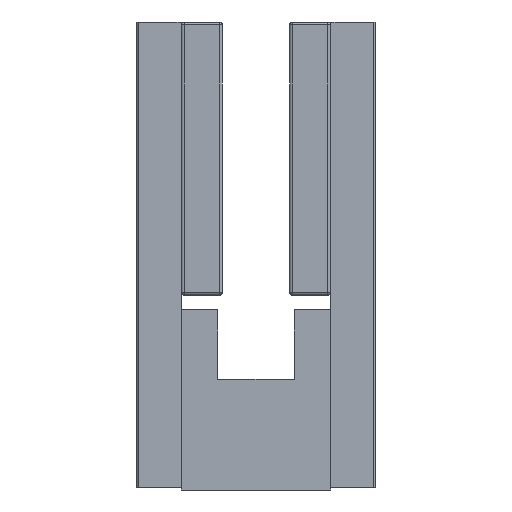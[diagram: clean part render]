
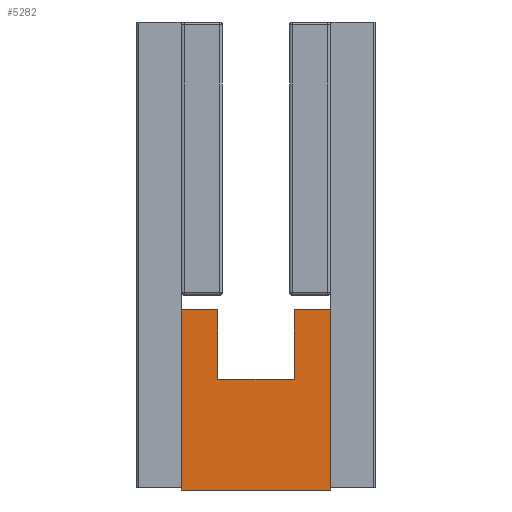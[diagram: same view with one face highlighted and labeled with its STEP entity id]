
A CAD part, left-side view. The second image highlights one B-rep face of the part: STEP entity #5282.
In plain terms, the highlighted planar face has unit normal (-1, 0, 0).
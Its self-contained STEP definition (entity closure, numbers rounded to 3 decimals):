
#52 = VERTEX_POINT ( 'NONE', #819 ) ;
#102 = DIRECTION ( 'NONE',  ( 0., -1., 0. ) ) ;
#125 = EDGE_CURVE ( 'NONE', #3481, #52, #3247, .T. ) ;
#152 = DIRECTION ( 'NONE',  ( 0., 0., -1. ) ) ;
#167 = VERTEX_POINT ( 'NONE', #857 ) ;
#204 = EDGE_LOOP ( 'NONE', ( #4736, #2892, #462, #2624, #4052, #907, #5808, #2332 ) ) ;
#462 = ORIENTED_EDGE ( 'NONE', *, *, #4031, .F. ) ;
#564 = PLANE ( 'NONE',  #4258 ) ;
#819 = CARTESIAN_POINT ( 'NONE',  ( -59.6, 5.075, -4.1 ) ) ;
#843 = DIRECTION ( 'NONE',  ( 0., -1., 0. ) ) ;
#857 = CARTESIAN_POINT ( 'NONE',  ( -59.6, -2.575, 8.1 ) ) ;
#907 = ORIENTED_EDGE ( 'NONE', *, *, #3236, .F. ) ;
#940 = LINE ( 'NONE', #3169, #2379 ) ;
#942 = CARTESIAN_POINT ( 'NONE',  ( -59.6, -5.075, 3.9 ) ) ;
#1192 = EDGE_CURVE ( 'NONE', #167, #4220, #940, .T. ) ;
#1290 = DIRECTION ( 'NONE',  ( 0., 0., -1. ) ) ;
#1344 = CARTESIAN_POINT ( 'NONE',  ( -59.6, -5.075, 8.1 ) ) ;
#1353 = CARTESIAN_POINT ( 'NONE',  ( -59.6, -5.075, 3.9 ) ) ;
#1398 = DIRECTION ( 'NONE',  ( 1., 0., 0. ) ) ;
#1419 = CARTESIAN_POINT ( 'NONE',  ( -59.6, -5.075, -4.1 ) ) ;
#1462 = FACE_OUTER_BOUND ( 'NONE', #204, .T. ) ;
#1600 = LINE ( 'NONE', #5165, #2469 ) ;
#1612 = VERTEX_POINT ( 'NONE', #1769 ) ;
#1699 = DIRECTION ( 'NONE',  ( 0., -1., 0. ) ) ;
#1769 = CARTESIAN_POINT ( 'NONE',  ( -59.6, 5.075, 8.1 ) ) ;
#1779 = LINE ( 'NONE', #4959, #4244 ) ;
#1903 = DIRECTION ( 'NONE',  ( 0., 0., -1. ) ) ;
#1908 = DIRECTION ( 'NONE',  ( 0., 0., -1. ) ) ;
#1962 = VERTEX_POINT ( 'NONE', #5178 ) ;
#2013 = EDGE_CURVE ( 'NONE', #5363, #1962, #2374, .T. ) ;
#2332 = ORIENTED_EDGE ( 'NONE', *, *, #5445, .T. ) ;
#2334 = DIRECTION ( 'NONE',  ( 0., 1., 0. ) ) ;
#2362 = VECTOR ( 'NONE', #1290, 1000. ) ;
#2374 = LINE ( 'NONE', #5669, #4328 ) ;
#2379 = VECTOR ( 'NONE', #843, 1000. ) ;
#2469 = VECTOR ( 'NONE', #1908, 1000. ) ;
#2593 = DIRECTION ( 'NONE',  ( 0., 1., 0. ) ) ;
#2624 = ORIENTED_EDGE ( 'NONE', *, *, #4294, .T. ) ;
#2774 = LINE ( 'NONE', #2796, #3411 ) ;
#2796 = CARTESIAN_POINT ( 'NONE',  ( -59.6, 5.075, 3.9 ) ) ;
#2892 = ORIENTED_EDGE ( 'NONE', *, *, #5162, .F. ) ;
#2899 = CARTESIAN_POINT ( 'NONE',  ( -59.6, -2.575, 8.1 ) ) ;
#3143 = LINE ( 'NONE', #1353, #2362 ) ;
#3169 = CARTESIAN_POINT ( 'NONE',  ( -59.6, -2.575, 8.1 ) ) ;
#3236 = EDGE_CURVE ( 'NONE', #4220, #3481, #3143, .T. ) ;
#3247 = LINE ( 'NONE', #5823, #3527 ) ;
#3336 = VECTOR ( 'NONE', #152, 1000. ) ;
#3411 = VECTOR ( 'NONE', #1903, 1000. ) ;
#3481 = VERTEX_POINT ( 'NONE', #1419 ) ;
#3527 = VECTOR ( 'NONE', #2593, 1000. ) ;
#3681 = VERTEX_POINT ( 'NONE', #4811 ) ;
#4031 = EDGE_CURVE ( 'NONE', #1612, #3681, #1779, .T. ) ;
#4052 = ORIENTED_EDGE ( 'NONE', *, *, #125, .F. ) ;
#4220 = VERTEX_POINT ( 'NONE', #1344 ) ;
#4244 = VECTOR ( 'NONE', #1699, 1000. ) ;
#4258 = AXIS2_PLACEMENT_3D ( 'NONE', #942, #1398, #2334 ) ;
#4294 = EDGE_CURVE ( 'NONE', #1612, #52, #2774, .T. ) ;
#4328 = VECTOR ( 'NONE', #102, 1000. ) ;
#4587 = LINE ( 'NONE', #2899, #3336 ) ;
#4736 = ORIENTED_EDGE ( 'NONE', *, *, #2013, .F. ) ;
#4811 = CARTESIAN_POINT ( 'NONE',  ( -59.6, 2.575, 8.1 ) ) ;
#4959 = CARTESIAN_POINT ( 'NONE',  ( -59.6, 5.075, 8.1 ) ) ;
#5162 = EDGE_CURVE ( 'NONE', #3681, #5363, #1600, .T. ) ;
#5165 = CARTESIAN_POINT ( 'NONE',  ( -59.6, 2.575, 8.1 ) ) ;
#5178 = CARTESIAN_POINT ( 'NONE',  ( -59.6, -2.575, 3.4 ) ) ;
#5236 = CARTESIAN_POINT ( 'NONE',  ( -59.6, 2.575, 3.4 ) ) ;
#5282 = ADVANCED_FACE ( 'NONE', ( #1462 ), #564, .F. ) ;
#5363 = VERTEX_POINT ( 'NONE', #5236 ) ;
#5445 = EDGE_CURVE ( 'NONE', #167, #1962, #4587, .T. ) ;
#5669 = CARTESIAN_POINT ( 'NONE',  ( -59.6, 2.575, 3.4 ) ) ;
#5808 = ORIENTED_EDGE ( 'NONE', *, *, #1192, .F. ) ;
#5823 = CARTESIAN_POINT ( 'NONE',  ( -59.6, -5.075, -4.1 ) ) ;
